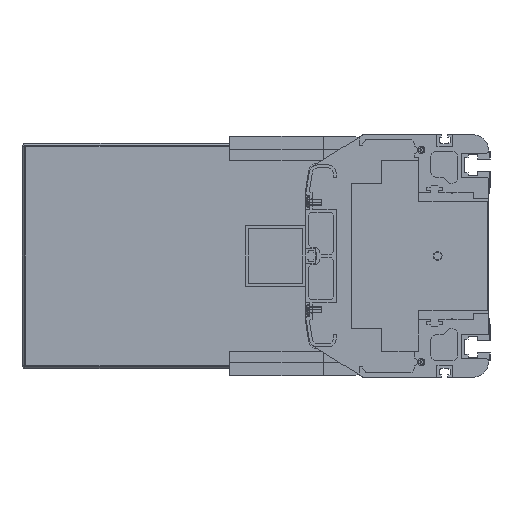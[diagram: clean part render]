
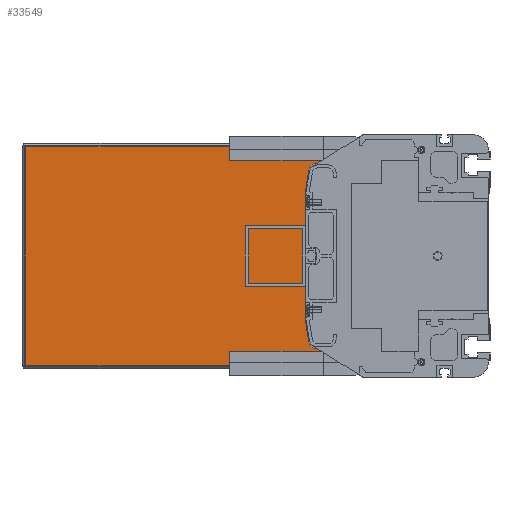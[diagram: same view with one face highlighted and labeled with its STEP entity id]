
A CAD part, left-side view. The second image highlights one B-rep face of the part: STEP entity #33549.
In plain terms, the highlighted planar face has unit normal (-1, 0, 0).
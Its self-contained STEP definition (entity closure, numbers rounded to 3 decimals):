
#2556=DIRECTION('',(0.,0.,-1.));
#2557=VECTOR('',#2556,11.);
#2558=CARTESIAN_POINT('',(4086.5,86.,-61.));
#2559=LINE('',#2558,#2557);
#2565=DIRECTION('',(0.,0.,-1.));
#2566=VECTOR('',#2565,11.);
#2567=CARTESIAN_POINT('',(4086.5,86.,72.));
#2568=LINE('',#2567,#2566);
#12277=DIRECTION('',(0.,1.,0.));
#12278=VECTOR('',#12277,28.728);
#12279=CARTESIAN_POINT('',(4086.5,86.,-61.));
#12280=LINE('',#12279,#12278);
#12285=CARTESIAN_POINT('',(4086.5,114.728,56.));
#12286=DIRECTION('',(-1.,0.,0.));
#12287=DIRECTION('',(0.,0.,1.));
#12288=AXIS2_PLACEMENT_3D('',#12285,#12286,#12287);
#12290=DIRECTION('',(0.,0.156,-0.988));
#12291=VECTOR('',#12290,14.963);
#12292=CARTESIAN_POINT('',(4086.5,119.666,56.78));
#12293=LINE('',#12292,#12291);
#12294=DIRECTION('',(0.,-0.156,-0.988));
#12295=VECTOR('',#12294,14.963);
#12296=CARTESIAN_POINT('',(4086.5,122.,-42.));
#12297=LINE('',#12296,#12295);
#12298=CARTESIAN_POINT('',(4086.5,114.728,-56.));
#12299=DIRECTION('',(-1.,0.,0.));
#12300=DIRECTION('',(0.,0.988,-0.156));
#12301=AXIS2_PLACEMENT_3D('',#12298,#12299,#12300);
#12307=DIRECTION('',(0.,-1.,0.));
#12308=VECTOR('',#12307,220.5);
#12309=CARTESIAN_POINT('',(4086.5,306.5,-72.));
#12310=LINE('',#12309,#12308);
#14804=DIRECTION('',(0.,1.,0.));
#14805=VECTOR('',#14804,220.5);
#14806=CARTESIAN_POINT('',(4086.5,86.,72.));
#14807=LINE('',#14806,#14805);
#14831=DIRECTION('',(0.,0.,-1.));
#14832=VECTOR('',#14831,144.);
#14833=CARTESIAN_POINT('',(4086.5,306.5,72.));
#14834=LINE('',#14833,#14832);
#15562=DIRECTION('',(0.,-1.,0.));
#15563=VECTOR('',#15562,28.728);
#15564=CARTESIAN_POINT('',(4086.5,114.728,61.));
#15565=LINE('',#15564,#15563);
#15578=DIRECTION('',(0.,0.,1.));
#15579=VECTOR('',#15578,84.);
#15580=CARTESIAN_POINT('',(4086.5,122.,-42.));
#15581=LINE('',#15580,#15579);
#18602=CARTESIAN_POINT('',(4086.5,306.5,-72.));
#18603=CARTESIAN_POINT('',(4086.5,86.,-72.));
#18604=VERTEX_POINT('',#18602);
#18605=VERTEX_POINT('',#18603);
#18606=CARTESIAN_POINT('',(4086.5,86.,-61.));
#18607=VERTEX_POINT('',#18606);
#18608=CARTESIAN_POINT('',(4086.5,114.728,-61.));
#18609=VERTEX_POINT('',#18608);
#18610=CARTESIAN_POINT('',(4086.5,119.666,-56.78));
#18611=VERTEX_POINT('',#18610);
#18612=CARTESIAN_POINT('',(4086.5,122.,-42.));
#18613=VERTEX_POINT('',#18612);
#18614=CARTESIAN_POINT('',(4086.5,122.,42.));
#18615=VERTEX_POINT('',#18614);
#18616=CARTESIAN_POINT('',(4086.5,119.666,56.78));
#18617=VERTEX_POINT('',#18616);
#18618=CARTESIAN_POINT('',(4086.5,114.728,61.));
#18619=VERTEX_POINT('',#18618);
#18620=CARTESIAN_POINT('',(4086.5,86.,61.));
#18621=VERTEX_POINT('',#18620);
#18622=CARTESIAN_POINT('',(4086.5,86.,72.));
#18623=VERTEX_POINT('',#18622);
#18624=CARTESIAN_POINT('',(4086.5,306.5,72.));
#18625=VERTEX_POINT('',#18624);
#33521=CARTESIAN_POINT('',(4086.5,196.25,0.));
#33522=DIRECTION('',(1.,0.,0.));
#33523=DIRECTION('',(0.,0.,-1.));
#33524=AXIS2_PLACEMENT_3D('',#33521,#33522,#33523);
#33525=PLANE('',#33524);
#33527=ORIENTED_EDGE('',*,*,#33526,.F.);
#33529=ORIENTED_EDGE('',*,*,#33528,.F.);
#33531=ORIENTED_EDGE('',*,*,#33530,.F.);
#33532=ORIENTED_EDGE('',*,*,#25165,.T.);
#33534=ORIENTED_EDGE('',*,*,#33533,.F.);
#33536=ORIENTED_EDGE('',*,*,#33535,.T.);
#33538=ORIENTED_EDGE('',*,*,#33537,.T.);
#33540=ORIENTED_EDGE('',*,*,#33539,.F.);
#33542=ORIENTED_EDGE('',*,*,#33541,.T.);
#33544=ORIENTED_EDGE('',*,*,#33543,.T.);
#33545=ORIENTED_EDGE('',*,*,#33513,.F.);
#33546=ORIENTED_EDGE('',*,*,#25134,.T.);
#33547=EDGE_LOOP('',(#33527,#33529,#33531,#33532,#33534,#33536,#33538,#33540,
#33542,#33544,#33545,#33546));
#33548=FACE_OUTER_BOUND('',#33547,.F.);
#33549=ADVANCED_FACE('',(#33548),#33525,.F.);
#12289=CIRCLE('',#12288,5.);
#12302=CIRCLE('',#12301,5.);
#25134=EDGE_CURVE('',#18607,#18605,#2559,.T.);
#25165=EDGE_CURVE('',#18623,#18621,#2568,.T.);
#33513=EDGE_CURVE('',#18607,#18609,#12280,.T.);
#33526=EDGE_CURVE('',#18604,#18605,#12310,.T.);
#33528=EDGE_CURVE('',#18625,#18604,#14834,.T.);
#33530=EDGE_CURVE('',#18623,#18625,#14807,.T.);
#33533=EDGE_CURVE('',#18619,#18621,#15565,.T.);
#33535=EDGE_CURVE('',#18619,#18617,#12289,.T.);
#33537=EDGE_CURVE('',#18617,#18615,#12293,.T.);
#33539=EDGE_CURVE('',#18613,#18615,#15581,.T.);
#33541=EDGE_CURVE('',#18613,#18611,#12297,.T.);
#33543=EDGE_CURVE('',#18611,#18609,#12302,.T.);
